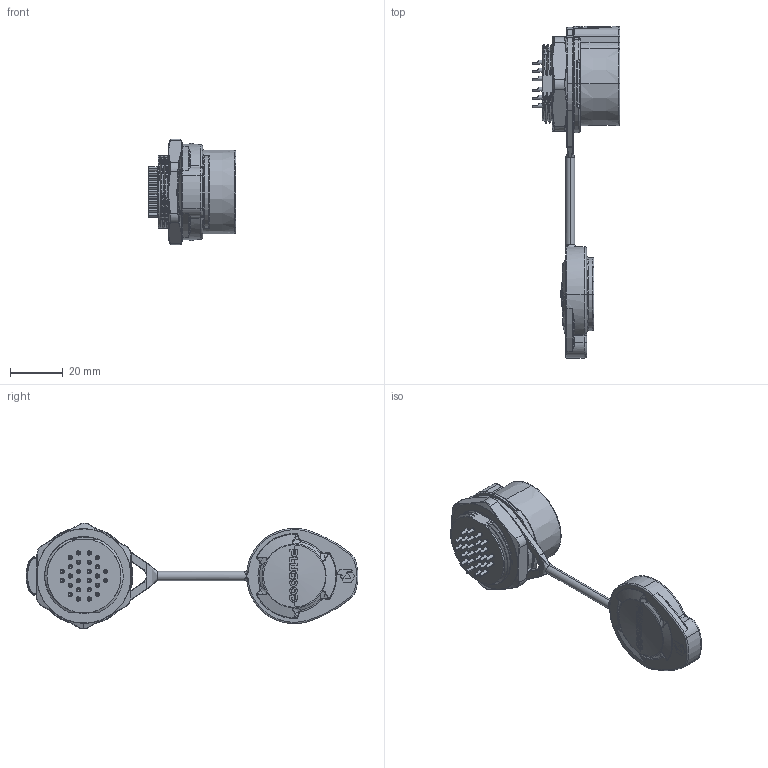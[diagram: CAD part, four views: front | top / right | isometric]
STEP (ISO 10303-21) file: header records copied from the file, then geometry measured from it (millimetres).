
FILE_DESCRIPTION (( 'STEP AP203' ), '1' );
FILE_NAME ('PLG28 26郋等謂脣釱淏蚾.STEP', '2025-11-19T09:03:08', ( '' ), ( '' ), 'SwSTEP 2.0', 'SolidWorks 2024', '' );
FILE_SCHEMA (( 'CONFIG_CONTROL_DESIGN' ));
Length unit declared in the file: millimetre
Products named in the file (1): PLG28 26芯单孔插座正装
Bounding box: 33.3 x 126.27 x 40.21 mm (x, y, z)
Volume: 28191.5 mm3; surface area: 18383.9 mm2
Topology: 8 solids, 8 shells, 2251 faces, 5975 edges, 3718 vertices
Faces by surface type: plane 713, cylinder 553, bspline 420, torus 303, cone 196, sphere 66
Entity records: 91429 total; most frequent: CARTESIAN_POINT 38431, ORIENTED_EDGE 11882, DIRECTION 10244, EDGE_CURVE 5941, AXIS2_PLACEMENT_3D 4001, VERTEX_POINT 3714, EDGE_LOOP 2371, FACE_OUTER_BOUND 2251
